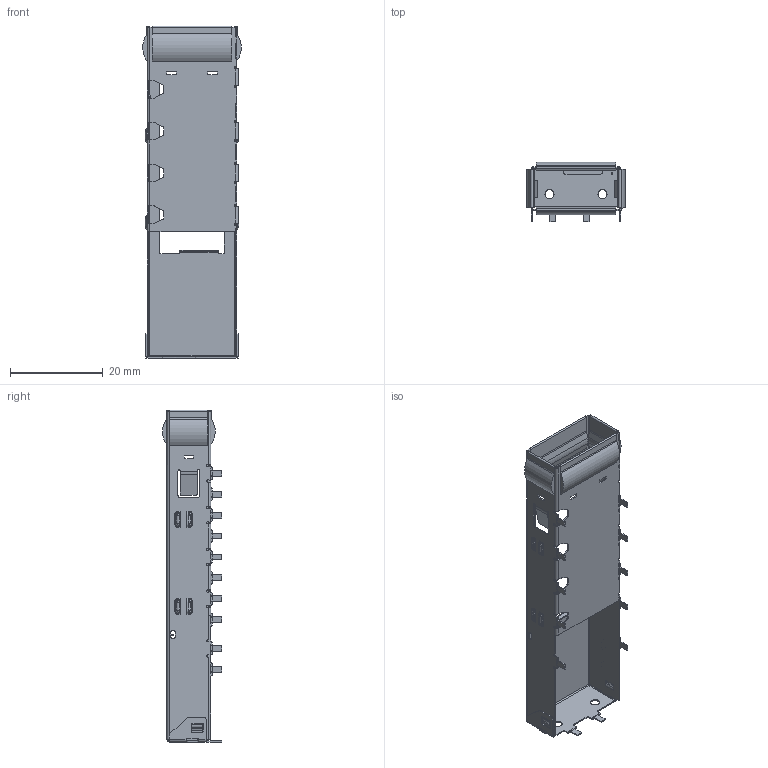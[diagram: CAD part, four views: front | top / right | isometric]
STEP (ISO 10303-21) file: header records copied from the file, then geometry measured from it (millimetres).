
FILE_DESCRIPTION((''),'2;1');
FILE_NAME('CAGE_1X1_FANGKUN_EMI_ASM','2021-11-01T11:14:17',('C080069'),(''),'CREO PARAMETRIC BY PTC INC, 2019471','CREO PARAMETRIC BY PTC INC, 2019471','');
FILE_SCHEMA(('AUTOMOTIVE_DESIGN { 1 0 10303 214 1 1 1 1 }'));
Length unit declared in the file: millimetre
Products named in the file (1): CAGE_1X1_FANGKUN_EMI_ASM
Bounding box: 21.21 x 12.73 x 71.45 mm (x, y, z)
Volume: 1106.3 mm3; surface area: 6660.7 mm2
Topology: 1 solids, 13 shells, 1508 faces, 3994 edges, 2503 vertices
Faces by surface type: plane 925, cylinder 519, bspline 32, sphere 32
Entity records: 48174 total; most frequent: CARTESIAN_POINT 10280, ORIENTED_EDGE 7988, DIRECTION 7814, EDGE_CURVE 3994, VECTOR 2888, LINE 2888, VERTEX_POINT 2503, AXIS2_PLACEMENT_3D 2463
